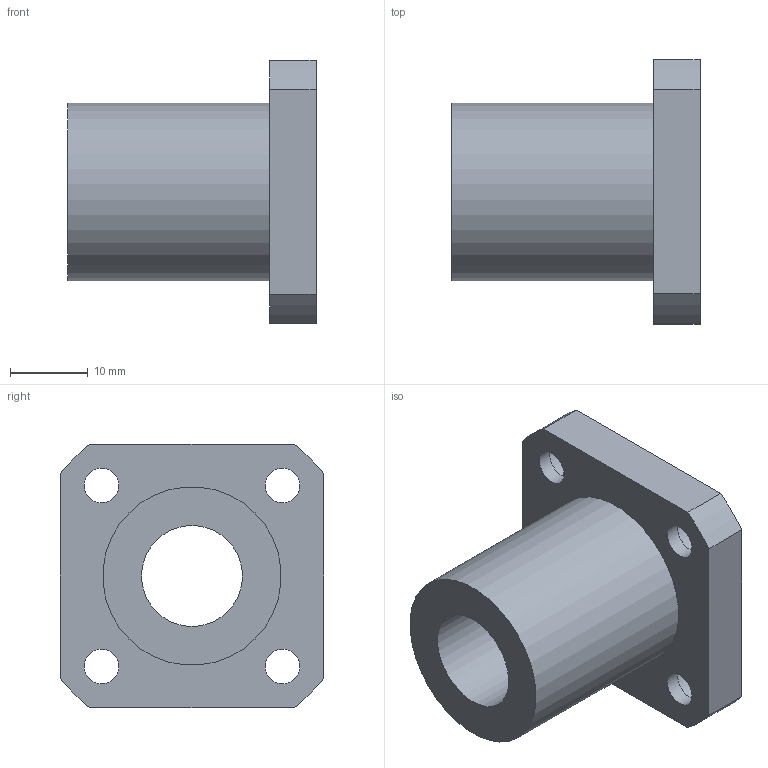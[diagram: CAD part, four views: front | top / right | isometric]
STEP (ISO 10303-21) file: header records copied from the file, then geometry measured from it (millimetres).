
FILE_DESCRIPTION(/* description */ (''),/* implementation_level */ '2;1');
FILE_NAME(/* name */ 'LMK13UU',/* time_stamp */ '2019-07-09T15:13:04+02:00',/* author */ ('VĂ©gh MĂˇtĂ©'),/* organization */ ('Bearing Kft'),/* preprocessor_version */ 'ST-DEVELOPER v16.7',/* originating_system */ 'DEX',/* authorisation */ $);
FILE_SCHEMA (('AUTOMOTIVE_DESIGN {1 0 10303 214 3 1 1}'));
Length unit declared in the file: millimetre
Products named in the file (1): LMK13UU
Bounding box: 32 x 34 x 34 mm (x, y, z)
Volume: 12482.2 mm3; surface area: 6321.8 mm2
Topology: 1 solids, 1 shells, 329 faces, 831 edges, 554 vertices
Faces by surface type: plane 252, bspline 60, cylinder 17
Full cylindrical faces by diameter (mm): 4.5 x4, 7.5 x4, 13 x1, 23 x1
Entity records: 12390 total; most frequent: CARTESIAN_POINT 4820, ORIENTED_EDGE 1640, DIRECTION 1274, EDGE_CURVE 820, LINE 666, VECTOR 666, VERTEX_POINT 554, EDGE_LOOP 400
